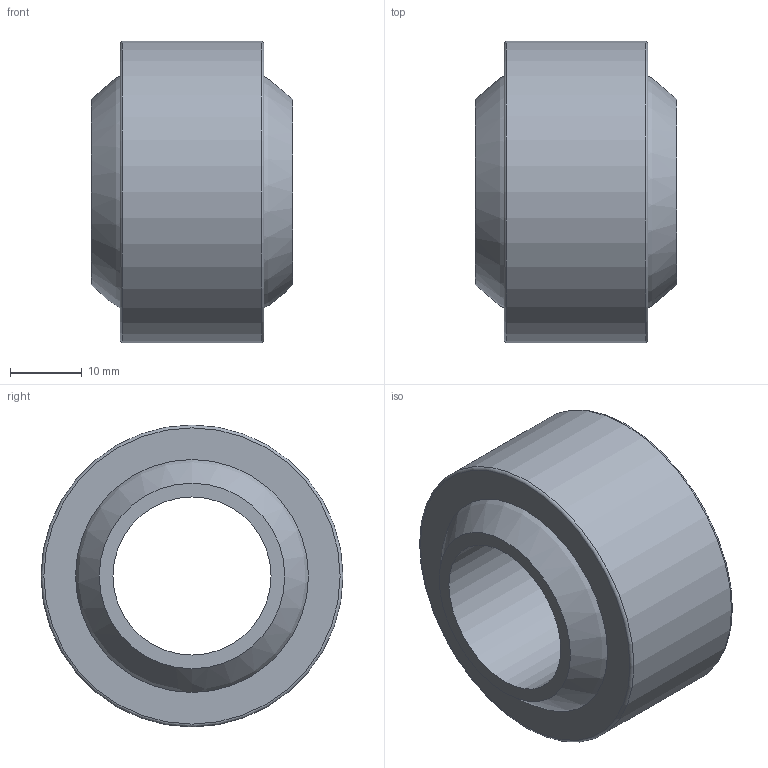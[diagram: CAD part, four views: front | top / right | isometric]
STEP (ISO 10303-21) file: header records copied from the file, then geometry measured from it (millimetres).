
FILE_DESCRIPTION( ( 'STEP AP203' ), '1' );
FILE_NAME( 'C:/Temp/Ganter_Step_05_03_2020/data/3_6/gn_648_8/gn_648_8_w/Ball joint GN 648.8-22-42-W.stp', '2020-03-12T14:14:32', ( 'License CC BY-ND 4.0' ), ( 'CADENAS' ), ' ', 'PARTsolutions', ' ' );
FILE_SCHEMA( ( 'CONFIG_CONTROL_DESIGN' ) );
Length unit declared in the file: millimetre
Products named in the file (3): Ball joint GN 648.8-22-42-W; _Ball joint GN 648.8-22-42-W-2; _Ball joint GN 648.8-22-42-W-1
Assembly tree (2 placements, depth 2):
  Ball joint GN 648.8-22-42-W
    _Ball joint GN 648.8-22-42-W-2
    _Ball joint GN 648.8-22-42-W-1
Bounding box: 28 x 42 x 42 mm (x, y, z)
Volume: 22514.6 mm3; surface area: 11678.5 mm2
Topology: 2 solids, 2 shells, 10 faces, 16 edges, 10 vertices
Faces by surface type: plane 4, sphere 2, torus 2, cylinder 2
Full cylindrical faces by diameter (mm): 22 x1, 42 x1
Entity records: 320 total; most frequent: DIRECTION 46, CARTESIAN_POINT 33, AXIS2_PLACEMENT_3D 23, EDGE_LOOP 20, ORIENTED_EDGE 20, FACE_OUTER_BOUND 16, CC_DESIGN_PERSON_AND_ORGANIZATION_ASSIGNMENT 13, ADVANCED_FACE 10
